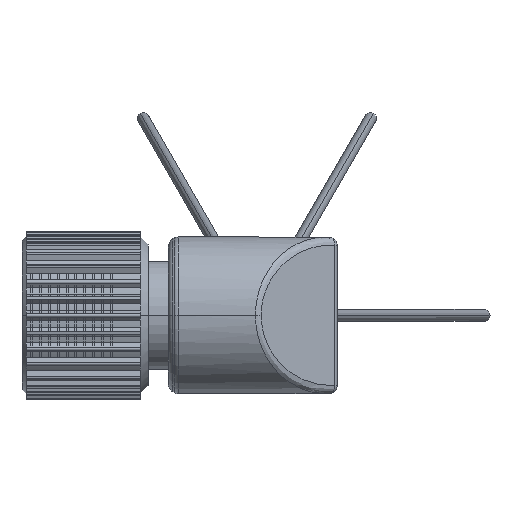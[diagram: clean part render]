
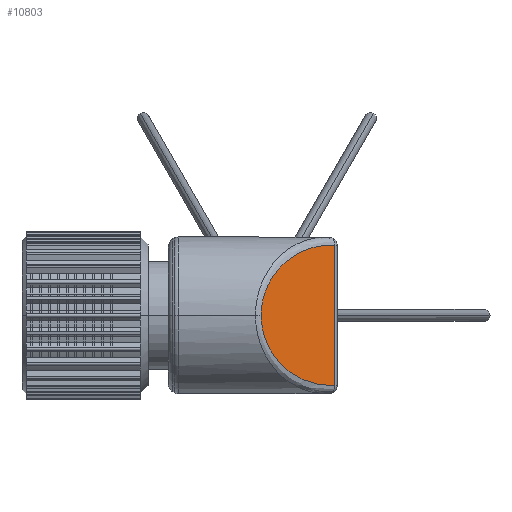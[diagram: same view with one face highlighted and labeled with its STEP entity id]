
A CAD part, front view. The second image highlights one B-rep face of the part: STEP entity #10803.
In plain terms, the highlighted planar face has unit normal (0.707, -0.707, 0).
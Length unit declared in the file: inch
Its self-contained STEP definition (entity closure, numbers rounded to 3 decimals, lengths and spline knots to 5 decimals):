
#3016=DIRECTION('',(0.,0.,-1.));
#3017=VECTOR('',#3016,0.3496);
#3018=CARTESIAN_POINT('',(0.77814,-0.00586,
0.17481));
#3019=LINE('',#3018,#3017);
#3020=CARTESIAN_POINT('',(0.77814,-0.00586,
-0.1748));
#3021=CARTESIAN_POINT('',(0.76749,-0.01651,
-0.1753));
#3022=CARTESIAN_POINT('',(0.74678,-0.03722,
-0.17438));
#3023=CARTESIAN_POINT('',(0.71702,-0.06698,
-0.16772));
#3024=CARTESIAN_POINT('',(0.69006,-0.09394,
-0.15661));
#3025=CARTESIAN_POINT('',(0.66634,-0.11766,
-0.14197));
#3026=CARTESIAN_POINT('',(0.64622,-0.13778,
-0.12474));
#3027=CARTESIAN_POINT('',(0.62971,-0.15429,
-0.10575));
#3028=CARTESIAN_POINT('',(0.61665,-0.16735,
-0.08564));
#3029=CARTESIAN_POINT('',(0.6068,-0.1772,
-0.06486));
#3030=CARTESIAN_POINT('',(0.59991,-0.18409,
-0.04365));
#3031=CARTESIAN_POINT('',(0.59579,-0.18821,
-0.02204));
#3032=CARTESIAN_POINT('',(0.59486,-0.18914,
-0.00739));
#3033=CARTESIAN_POINT('',(0.59486,-0.18914,0.));
#3035=CARTESIAN_POINT('',(0.59486,-0.18914,0.));
#3036=CARTESIAN_POINT('',(0.59486,-0.18914,
0.00697));
#3037=CARTESIAN_POINT('',(0.59569,-0.18831,
0.02096));
#3038=CARTESIAN_POINT('',(0.59953,-0.18447,
0.04211));
#3039=CARTESIAN_POINT('',(0.6062,-0.1778,
0.06336));
#3040=CARTESIAN_POINT('',(0.61597,-0.16803,
0.08446));
#3041=CARTESIAN_POINT('',(0.62914,-0.15486,
0.10503));
#3042=CARTESIAN_POINT('',(0.64596,-0.13804,
0.12453));
#3043=CARTESIAN_POINT('',(0.66662,-0.11738,
0.14222));
#3044=CARTESIAN_POINT('',(0.69101,-0.09299,
0.15713));
#3045=CARTESIAN_POINT('',(0.71852,-0.06548,
0.1682));
#3046=CARTESIAN_POINT('',(0.74821,-0.03579,
0.17452));
#3047=CARTESIAN_POINT('',(0.76807,-0.01593,
0.17528));
#3048=CARTESIAN_POINT('',(0.77814,-0.00586,
0.17481));
#6124=CARTESIAN_POINT('',(0.77814,-0.00586,
0.17481));
#6125=CARTESIAN_POINT('',(0.77814,-0.00586,
-0.1748));
#6126=VERTEX_POINT('',#6124);
#6127=VERTEX_POINT('',#6125);
#6132=VERTEX_POINT('',#3033);
#10792=CARTESIAN_POINT('',(0.784,0.,-0.5));
#10793=DIRECTION('',(-0.707,0.707,0.));
#10794=DIRECTION('',(-0.707,-0.707,0.));
#10795=AXIS2_PLACEMENT_3D('',#10792,#10793,#10794);
#10796=PLANE('',#10795);
#10798=ORIENTED_EDGE('',*,*,#10797,.T.);
#10799=ORIENTED_EDGE('',*,*,#10677,.T.);
#10800=ORIENTED_EDGE('',*,*,#10783,.T.);
#10801=EDGE_LOOP('',(#10798,#10799,#10800));
#10802=FACE_OUTER_BOUND('',#10801,.F.);
#10803=ADVANCED_FACE('',(#10802),#10796,.F.);
#3034=B_SPLINE_CURVE_WITH_KNOTS('',3,(#3020,#3021,#3022,#3023,#3024,#3025,#3026,
#3027,#3028,#3029,#3030,#3031,#3032,#3033),.UNSPECIFIED.,.F.,.F.,(4,1,1,1,1,1,1,
1,1,1,1,4),(0.,0.09091,0.18182,0.27273,
0.36364,0.45455,0.54545,0.63636,
0.72727,0.81818,0.90909,1.),.UNSPECIFIED.);
#3049=B_SPLINE_CURVE_WITH_KNOTS('',3,(#3035,#3036,#3037,#3038,#3039,#3040,#3041,
#3042,#3043,#3044,#3045,#3046,#3047,#3048),.UNSPECIFIED.,.F.,.F.,(4,1,1,1,1,1,1,
1,1,1,1,4),(0.,0.09091,0.18182,0.27273,
0.36364,0.45455,0.54545,0.63636,
0.72727,0.81818,0.90909,1.),.UNSPECIFIED.);
#10677=EDGE_CURVE('',#6127,#6132,#3034,.T.);
#10783=EDGE_CURVE('',#6132,#6126,#3049,.T.);
#10797=EDGE_CURVE('',#6126,#6127,#3019,.T.);
